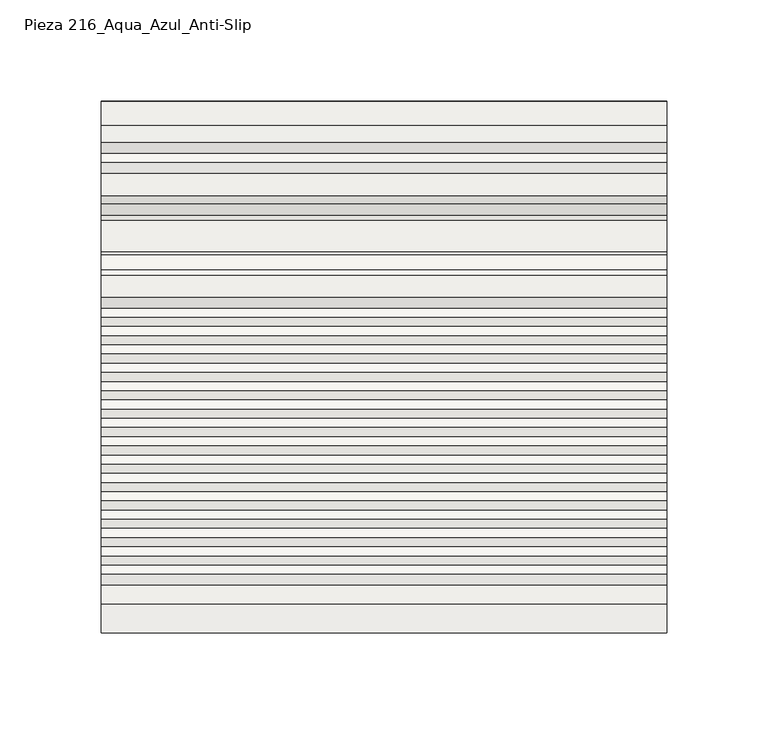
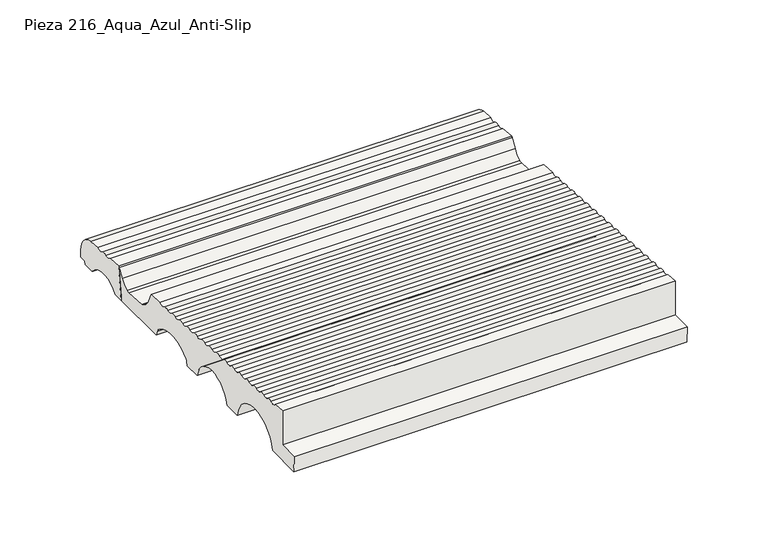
"""IFC4 building model written with IfcOpenShell, lengths in millimetres: slab geometry, ROSA GRES_216 : Pieza 216_Aqua_Azul_Anti-Slip."""

from ifc_helpers import new_model, si_unit, point, frame, frame_2d, origin, place, context, project, spatial, polyline, circle_curve, trimmed, segment, composite_curve, outline, extrude, source, transform, mapped, element, save


def pieza_216_aqua_azul_anti_slip_e681261f(model_context):
    return source(origin(), model_context, "Body", "SweptSolid", [
        extrude(outline(composite_curve([segment(polyline([(-50.2779274, 190.3313491), (-47.02226, 214.2649666), (-36.1886491, 213.5497765)]), True, "CONTINUOUS"), segment(trimmed(circle_curve(frame_2d((-32.9401407, 216.1124298)), 4.1376321), [point((-36.1886491, 213.5497765))], [point((-30.8950387, 212.5155483))], True, "CARTESIAN"), True, "CONTINUOUS"), segment(trimmed(circle_curve(frame_2d((-28.8499366, 208.9186667)), 4.1376321), [point((-30.8950387, 212.5155483))], [point((-26.349741, 212.2154865))], False, "CARTESIAN"), True, "CONTINUOUS"), segment(trimmed(circle_curve(frame_2d((-23.8495454, 215.5123064)), 4.1376321), [point((-26.349741, 212.2154865))], [point((-20.9679225, 212.5430894))], True, "CARTESIAN"), True, "CONTINUOUS"), segment(polyline([(-20.9679225, 212.5430894), (-12.4148911, 211.9892969)]), True, "CONTINUOUS"), segment(trimmed(circle_curve(frame_2d((-13.9356113, 198.4086002)), 13.6655739), [point((-12.4148911, 211.9892969))], [point((-0.270618, 198.2826277))], False, "CARTESIAN"), True, "CONTINUOUS"), segment(polyline([(-0.270618, 198.2826277), (-0.2589396, 192.8448483), (-5.1617818, 192.8343188), (-5.4229579, 190.3493946), (-14.2436688, 190.3458459)]), True, "CONTINUOUS"), segment(trimmed(circle_curve(frame_2d((-28.4466156, 179.1524611)), 18.0835716), [point((-14.2436688, 190.3458459))], [point((-42.6585641, 190.3344144))], True, "CARTESIAN"), True, "CONTINUOUS"), segment(polyline([(-42.6585641, 190.3344144), (-50.2779274, 190.3313491)]), True, "CONTINUOUS")], self_intersect=False)), frame((0.0, 0.0, 0.0), z_axis=(1.0, 0.0, 0.0), x_axis=(0.0, 1.0, 0.0)), (0.0, 0.0, 1.0), 280.0265886),
        extrude(outline(composite_curve([segment(polyline([(-263.2751802, 190.245659), (-263.622227, 201.6579314), (-249.1610944, 202.0976939), (-249.2078603, 227.5843816), (-240.0374016, 226.9789859)]), True, "CONTINUOUS"), segment(trimmed(circle_curve(frame_2d((-236.7888932, 229.5416393)), 4.1376321), [point((-240.0374016, 226.9789859))], [point((-234.7437912, 225.9447577))], True, "CARTESIAN"), True, "CONTINUOUS"), segment(trimmed(circle_curve(frame_2d((-232.6986891, 222.3478762)), 4.1376321), [point((-234.7437912, 225.9447577))], [point((-230.1984935, 225.644696))], False, "CARTESIAN"), True, "CONTINUOUS"), segment(trimmed(circle_curve(frame_2d((-227.6982979, 228.9415159)), 4.1376321), [point((-230.1984935, 225.644696))], [point((-225.6531958, 225.3446343))], True, "CARTESIAN"), True, "CONTINUOUS"), segment(trimmed(circle_curve(frame_2d((-223.6080938, 221.7477527)), 4.1376321), [point((-225.6531958, 225.3446343))], [point((-221.1078982, 225.0445726))], False, "CARTESIAN"), True, "CONTINUOUS"), segment(trimmed(circle_curve(frame_2d((-218.6077025, 228.3413925)), 4.1376321), [point((-221.1078982, 225.0445726))], [point((-216.5626005, 224.7445109))], True, "CARTESIAN"), True, "CONTINUOUS"), segment(trimmed(circle_curve(frame_2d((-214.5174985, 221.1476293)), 4.1376321), [point((-216.5626005, 224.7445109))], [point((-212.0173028, 224.4444492))], False, "CARTESIAN"), True, "CONTINUOUS"), segment(trimmed(circle_curve(frame_2d((-209.5171072, 227.741269)), 4.1376321), [point((-212.0173028, 224.4444492))], [point((-207.4720052, 224.1443874))], True, "CARTESIAN"), True, "CONTINUOUS"), segment(trimmed(circle_curve(frame_2d((-205.4269031, 220.5475058)), 4.1376321), [point((-207.4720052, 224.1443874))], [point((-202.9267075, 223.8443257))], False, "CARTESIAN"), True, "CONTINUOUS"), segment(trimmed(circle_curve(frame_2d((-200.4265119, 227.1411456)), 4.1376321), [point((-202.9267075, 223.8443257))], [point((-198.3814098, 223.544264))], True, "CARTESIAN"), True, "CONTINUOUS"), segment(trimmed(circle_curve(frame_2d((-196.3363078, 219.9473824)), 4.1376321), [point((-198.3814098, 223.544264))], [point((-193.8361122, 223.2442023))], False, "CARTESIAN"), True, "CONTINUOUS"), segment(trimmed(circle_curve(frame_2d((-191.3359165, 226.5410222)), 4.1376321), [point((-193.8361122, 223.2442023))], [point((-189.2908145, 222.9441406))], True, "CARTESIAN"), True, "CONTINUOUS"), segment(trimmed(circle_curve(frame_2d((-187.2457125, 219.347259)), 4.1376321), [point((-189.2908145, 222.9441406))], [point((-184.7455168, 222.6440788))], False, "CARTESIAN"), True, "CONTINUOUS"), segment(trimmed(circle_curve(frame_2d((-182.2453212, 225.9408987)), 4.1376321), [point((-184.7455168, 222.6440788))], [point((-180.2002192, 222.3440171))], True, "CARTESIAN"), True, "CONTINUOUS"), segment(trimmed(circle_curve(frame_2d((-178.1551171, 218.7471355)), 4.1376321), [point((-180.2002192, 222.3440171))], [point((-175.6549215, 222.0439554))], False, "CARTESIAN"), True, "CONTINUOUS"), segment(trimmed(circle_curve(frame_2d((-173.1547259, 225.3407753)), 4.1376321), [point((-175.6549215, 222.0439554))], [point((-171.1096238, 221.7438937))], True, "CARTESIAN"), True, "CONTINUOUS"), segment(trimmed(circle_curve(frame_2d((-169.0645218, 218.1470121)), 4.1376321), [point((-171.1096238, 221.7438937))], [point((-166.5643262, 221.443832))], False, "CARTESIAN"), True, "CONTINUOUS"), segment(trimmed(circle_curve(frame_2d((-164.0641305, 224.7406518)), 4.1376321), [point((-166.5643262, 221.443832))], [point((-162.0190285, 221.1437703))], True, "CARTESIAN"), True, "CONTINUOUS"), segment(trimmed(circle_curve(frame_2d((-159.9739265, 217.5468887)), 4.1376321), [point((-162.0190285, 221.1437703))], [point((-157.4737308, 220.8437085))], False, "CARTESIAN"), True, "CONTINUOUS"), segment(trimmed(circle_curve(frame_2d((-154.9735352, 224.1405284)), 4.1376321), [point((-157.4737308, 220.8437085))], [point((-152.9284332, 220.5436468))], True, "CARTESIAN"), True, "CONTINUOUS"), segment(trimmed(circle_curve(frame_2d((-150.8833311, 216.9467652)), 4.1376321), [point((-152.9284332, 220.5436468))], [point((-148.3831355, 220.2435851))], False, "CARTESIAN"), True, "CONTINUOUS"), segment(trimmed(circle_curve(frame_2d((-145.8829399, 223.540405)), 4.1376321), [point((-148.3831355, 220.2435851))], [point((-143.8378378, 219.9435234))], True, "CARTESIAN"), True, "CONTINUOUS"), segment(trimmed(circle_curve(frame_2d((-141.7927358, 216.3466418)), 4.1376321), [point((-143.8378378, 219.9435234))], [point((-139.2925402, 219.6434617))], False, "CARTESIAN"), True, "CONTINUOUS"), segment(trimmed(circle_curve(frame_2d((-136.7923445, 222.9402815)), 4.1376321), [point((-139.2925402, 219.6434617))], [point((-134.7472425, 219.3433999))], True, "CARTESIAN"), True, "CONTINUOUS"), segment(trimmed(circle_curve(frame_2d((-132.7021405, 215.7465184)), 4.1376321), [point((-134.7472425, 219.3433999))], [point((-130.2019448, 219.0433382))], False, "CARTESIAN"), True, "CONTINUOUS"), segment(trimmed(circle_curve(frame_2d((-127.7017492, 222.3401581)), 4.1376321), [point((-130.2019448, 219.0433382))], [point((-125.6566472, 218.7432765))], True, "CARTESIAN"), True, "CONTINUOUS"), segment(trimmed(circle_curve(frame_2d((-123.6115451, 215.1463949)), 4.1376321), [point((-125.6566472, 218.7432765))], [point((-121.1113495, 218.4432148))], False, "CARTESIAN"), True, "CONTINUOUS"), segment(trimmed(circle_curve(frame_2d((-118.6111539, 221.7400347)), 4.1376321), [point((-121.1113495, 218.4432148))], [point((-116.5660518, 218.1431531))], True, "CARTESIAN"), True, "CONTINUOUS"), segment(trimmed(circle_curve(frame_2d((-114.5209498, 214.5462715)), 4.1376321), [point((-116.5660518, 218.1431531))], [point((-112.0207542, 217.8430914))], False, "CARTESIAN"), True, "CONTINUOUS"), segment(trimmed(circle_curve(frame_2d((-109.5205585, 221.1399112)), 4.1376321), [point((-112.0207542, 217.8430914))], [point((-107.4754565, 217.5430296))], True, "CARTESIAN"), True, "CONTINUOUS"), segment(trimmed(circle_curve(frame_2d((-105.4303545, 213.9461481)), 4.1376321), [point((-107.4754565, 217.5430296))], [point((-102.9301588, 217.2429679))], False, "CARTESIAN"), True, "CONTINUOUS"), segment(trimmed(circle_curve(frame_2d((-100.4299632, 220.5397878)), 4.1376321), [point((-102.9301588, 217.2429679))], [point((-97.5473566, 217.5715259))], True, "CARTESIAN"), True, "CONTINUOUS"), segment(polyline([(-97.5473566, 217.5715259), (-86.7854822, 216.8536554), (-84.083877, 210.4125036)]), True, "CONTINUOUS"), segment(trimmed(circle_curve(frame_2d((-70.8098694, 215.980006)), 14.394317), [point((-84.083877, 210.4125036))], [point((-76.5779698, 202.7919289))], True, "CARTESIAN"), True, "CONTINUOUS"), segment(trimmed(circle_curve(frame_2d((-74.7526105, 206.9653964)), 4.5551913), [point((-76.5779698, 202.7919289))], [point((-75.0526722, 202.4200987))], True, "CARTESIAN"), True, "CONTINUOUS"), segment(polyline([(-75.0526722, 202.4200987), (-59.5105698, 201.3940735)]), True, "CONTINUOUS"), segment(trimmed(circle_curve(frame_2d((-59.2105081, 205.9393712)), 4.5551913), [point((-59.5105698, 201.3940735))], [point((-57.0972438, 201.904042))], True, "CARTESIAN"), True, "CONTINUOUS"), segment(trimmed(circle_curve(frame_2d((-63.7751184, 214.6556047)), 14.394317), [point((-57.0972438, 201.904042))], [point((-51.3482048, 207.3914339))], True, "CARTESIAN"), True, "CONTINUOUS"), segment(polyline([(-51.3482048, 207.3914339), (-47.02226, 214.2649666), (-50.2802779, 190.3140695), (-93.2293566, 190.3140695), (-94.4638044, 193.8901119)]), True, "CONTINUOUS"), segment(trimmed(circle_curve(frame_2d((-99.6308378, 192.1064549)), 5.4662296), [point((-94.4638044, 193.8901119))], [point((-96.2307788, 196.386556))], True, "CARTESIAN"), True, "CONTINUOUS"), segment(trimmed(circle_curve(frame_2d((-112.2317578, 176.2440208)), 25.7245612), [point((-96.2307788, 196.386556))], [point((-129.2498705, 195.5348707))], True, "CARTESIAN"), True, "CONTINUOUS"), segment(trimmed(circle_curve(frame_2d((-125.6336801, 191.4357448)), 5.4662296), [point((-129.2498705, 195.5348707))], [point((-130.9555618, 192.6836396))], True, "CARTESIAN"), True, "CONTINUOUS"), segment(polyline([(-130.9555618, 192.6836396), (-131.5147991, 190.298667), (-143.719644, 190.2937569)]), True, "CONTINUOUS"), segment(trimmed(circle_curve(frame_2d((-162.221775, 186.3703221)), 18.9135452), [point((-143.719644, 190.2937569))], [point((-180.7270569, 190.2788686))], True, "CARTESIAN"), True, "CONTINUOUS"), segment(polyline([(-180.7270569, 190.2788686), (-193.0966393, 190.2738923)]), True, "CONTINUOUS"), segment(trimmed(circle_curve(frame_2d((-215.0085062, 186.5344061)), 22.2286676), [point((-193.0966393, 190.2738923))], [point((-236.9233748, 190.2562605))], True, "CARTESIAN"), True, "CONTINUOUS"), segment(polyline([(-236.9233748, 190.2562605), (-263.2751802, 190.245659)]), True, "CONTINUOUS")], self_intersect=False)), frame((0.0, 0.0, 0.0), z_axis=(1.0, 0.0, 0.0), x_axis=(0.0, 1.0, 0.0)), (0.0, 0.0, 1.0), 280.0265886),
    ])


if __name__ == "__main__":
    model = new_model("IFC4")
    model_context = context("Model", 3, world=origin())
    ifc_project = project(units=[si_unit("LENGTHUNIT", "METRE", prefix="MILLI")], contexts=[model_context])
    site = spatial("IfcSite", under=ifc_project)
    building = spatial("IfcBuilding", under=site)
    placement = place(None, origin())
    pieza_216_aqua_azul_anti_slip_shape = pieza_216_aqua_azul_anti_slip_e681261f(model_context)
    element("IfcSlab", 1, ObjectType="ROSA GRES_216 : Pieza 216_Aqua_Azul_Anti-Slip", at=placement, inside=building, context=model_context, shape_type="MappedRepresentation", body=[
        mapped(pieza_216_aqua_azul_anti_slip_shape, transform((0.0, 0.0, 0.0), x_axis=(1.0, 0.0, 0.0), y_axis=(0.0, 1.0, 0.0), z_axis=(0.0, 0.0, 1.0))),
    ])
    save(model, "model.ifc")
